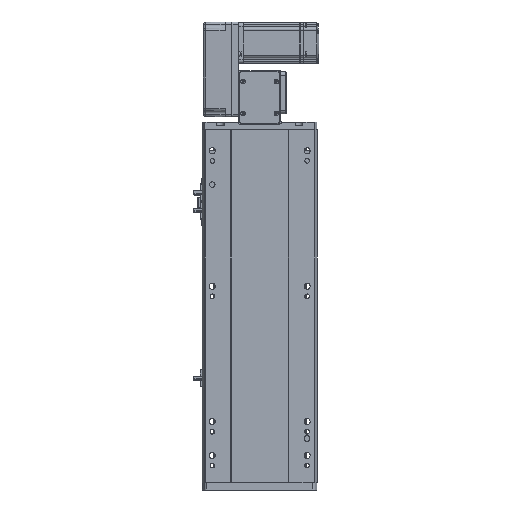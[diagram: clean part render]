
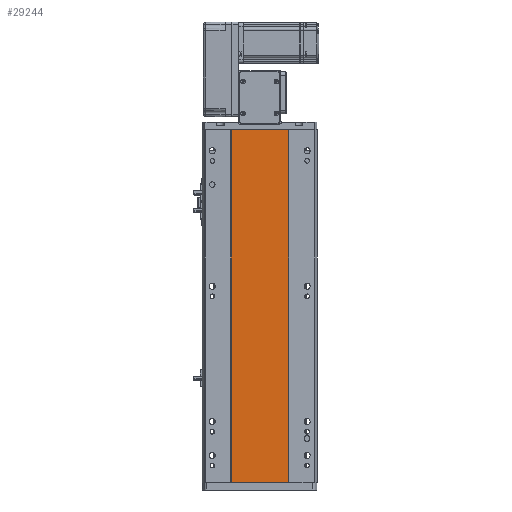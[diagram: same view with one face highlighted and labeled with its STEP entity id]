
A CAD part, front view. The second image highlights one B-rep face of the part: STEP entity #29244.
In plain terms, the highlighted planar face has unit normal (0, -1, 0).
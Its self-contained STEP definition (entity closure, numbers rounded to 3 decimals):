
#2699 = VERTEX_POINT ( 'NONE', #49928 ) ;
#3039 = EDGE_CURVE ( 'NONE', #35184, #32573, #37682, .T. ) ;
#3758 = EDGE_CURVE ( 'NONE', #32573, #2699, #24938, .T. ) ;
#8337 = PLANE ( 'NONE',  #38744 ) ;
#11101 = LINE ( 'NONE', #48358, #23757 ) ;
#11304 = EDGE_CURVE ( 'NONE', #35184, #25947, #11101, .T. ) ;
#11667 = DIRECTION ( 'NONE',  ( 0., 1., 0. ) ) ;
#15765 = ORIENTED_EDGE ( 'NONE', *, *, #11304, .T. ) ;
#16027 = CARTESIAN_POINT ( 'NONE',  ( 41.793, 0.998, 521. ) ) ;
#17165 = CARTESIAN_POINT ( 'NONE',  ( 0., 0.999, 0. ) ) ;
#19146 = DIRECTION ( 'NONE',  ( 1., 0., 0. ) ) ;
#23757 = VECTOR ( 'NONE', #53354, 1000. ) ;
#24537 = FACE_OUTER_BOUND ( 'NONE', #41588, .T. ) ;
#24938 = LINE ( 'NONE', #16027, #61260 ) ;
#25529 = VECTOR ( 'NONE', #31281, 1000. ) ;
#25947 = VERTEX_POINT ( 'NONE', #34372 ) ;
#29205 = LINE ( 'NONE', #17165, #25529 ) ;
#29244 = ADVANCED_FACE ( 'NONE', ( #24537 ), #8337, .F. ) ;
#31281 = DIRECTION ( 'NONE',  ( 1., 0., 0. ) ) ;
#32573 = VERTEX_POINT ( 'NONE', #44855 ) ;
#34150 = EDGE_CURVE ( 'NONE', #25947, #2699, #29205, .T. ) ;
#34372 = CARTESIAN_POINT ( 'NONE',  ( -41.791, 1., 0. ) ) ;
#35148 = DIRECTION ( 'NONE',  ( 0., 0., -1. ) ) ;
#35184 = VERTEX_POINT ( 'NONE', #55856 ) ;
#37682 = LINE ( 'NONE', #53011, #61382 ) ;
#38744 = AXIS2_PLACEMENT_3D ( 'NONE', #51140, #11667, #44927 ) ;
#41588 = EDGE_LOOP ( 'NONE', ( #57674, #56955, #52842, #15765 ) ) ;
#44855 = CARTESIAN_POINT ( 'NONE',  ( 41.793, 0.998, 521. ) ) ;
#44927 = DIRECTION ( 'NONE',  ( -1., 0., 0. ) ) ;
#48358 = CARTESIAN_POINT ( 'NONE',  ( -41.791, 1., 521. ) ) ;
#49928 = CARTESIAN_POINT ( 'NONE',  ( 41.793, 0.998, 0. ) ) ;
#51140 = CARTESIAN_POINT ( 'NONE',  ( 0., 0.999, 521. ) ) ;
#52842 = ORIENTED_EDGE ( 'NONE', *, *, #3039, .F. ) ;
#53011 = CARTESIAN_POINT ( 'NONE',  ( 0., 0.999, 521. ) ) ;
#53354 = DIRECTION ( 'NONE',  ( 0., 0., -1. ) ) ;
#55856 = CARTESIAN_POINT ( 'NONE',  ( -41.791, 1., 521. ) ) ;
#56955 = ORIENTED_EDGE ( 'NONE', *, *, #3758, .F. ) ;
#57674 = ORIENTED_EDGE ( 'NONE', *, *, #34150, .T. ) ;
#61260 = VECTOR ( 'NONE', #35148, 1000. ) ;
#61382 = VECTOR ( 'NONE', #19146, 1000. ) ;
